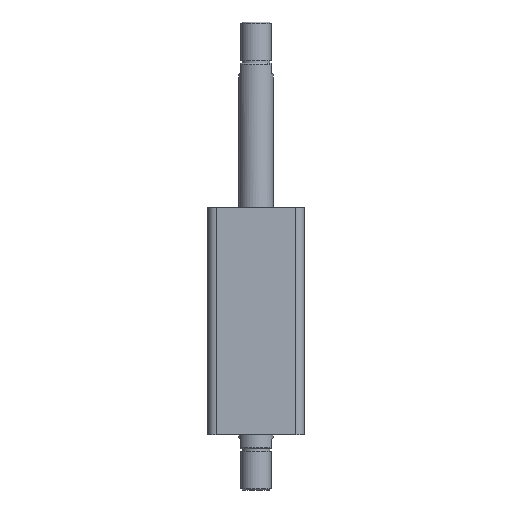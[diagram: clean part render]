
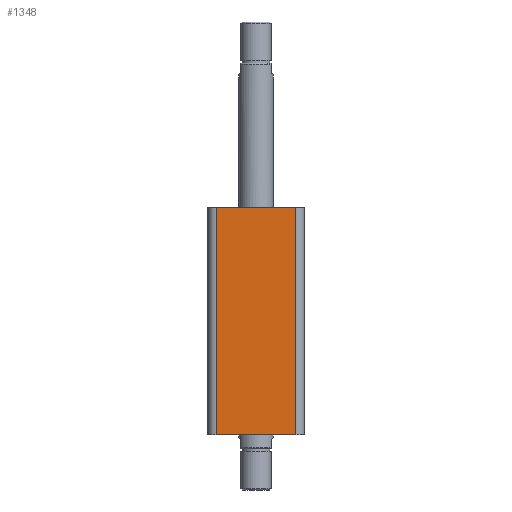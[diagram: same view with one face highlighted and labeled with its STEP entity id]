
A CAD part, front view. The second image highlights one B-rep face of the part: STEP entity #1348.
In plain terms, the highlighted planar face has unit normal (0, -1, 0).
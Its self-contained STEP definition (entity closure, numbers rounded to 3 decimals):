
#10 = PLANE ( 'NONE',  #3028 ) ;
#19 = CARTESIAN_POINT ( 'NONE',  ( -35., -35., 165. ) ) ;
#32 = DIRECTION ( 'NONE',  ( 0., 1., 0. ) ) ;
#33 = DIRECTION ( 'NONE',  ( 0., 0., 1. ) ) ;
#137 = ORIENTED_EDGE ( 'NONE', *, *, #2790, .T. ) ;
#487 = ORIENTED_EDGE ( 'NONE', *, *, #2794, .F. ) ;
#488 = ORIENTED_EDGE ( 'NONE', *, *, #2793, .T. ) ;
#489 = ORIENTED_EDGE ( 'NONE', *, *, #2792, .T. ) ;
#944 = DIRECTION ( 'NONE',  ( 0., 0., 1. ) ) ;
#948 = DIRECTION ( 'NONE',  ( 1., 0., 0. ) ) ;
#961 = CARTESIAN_POINT ( 'NONE',  ( 29., -35., 165. ) ) ;
#965 = CARTESIAN_POINT ( 'NONE',  ( -35., -35., 0. ) ) ;
#970 = CARTESIAN_POINT ( 'NONE',  ( -29., -35., 165. ) ) ;
#971 = DIRECTION ( 'NONE',  ( 0., 0., -1. ) ) ;
#972 = CARTESIAN_POINT ( 'NONE',  ( -35., -35., 165. ) ) ;
#973 = DIRECTION ( 'NONE',  ( 1., 0., 0. ) ) ;
#1348 = ADVANCED_FACE ( 'NONE', ( #1812 ), #10, .F. ) ;
#1564 = EDGE_LOOP ( 'NONE', ( #487, #488, #489, #137 ) ) ;
#1812 = FACE_OUTER_BOUND ( 'NONE', #1564, .T. ) ;
#2004 = LINE ( 'NONE', #961, #2007 ) ;
#2007 = VECTOR ( 'NONE', #944, 1000. ) ;
#2008 = LINE ( 'NONE', #965, #2010 ) ;
#2009 = LINE ( 'NONE', #970, #2012 ) ;
#2010 = VECTOR ( 'NONE', #948, 1000. ) ;
#2011 = LINE ( 'NONE', #972, #2014 ) ;
#2012 = VECTOR ( 'NONE', #971, 1000. ) ;
#2014 = VECTOR ( 'NONE', #973, 1000. ) ;
#2379 = CARTESIAN_POINT ( 'NONE',  ( -29., -35., 0. ) ) ;
#2399 = CARTESIAN_POINT ( 'NONE',  ( -29., -35., 165. ) ) ;
#2412 = CARTESIAN_POINT ( 'NONE',  ( 29., -35., 165. ) ) ;
#2444 = CARTESIAN_POINT ( 'NONE',  ( 29., -35., 0. ) ) ;
#2790 = EDGE_CURVE ( 'NONE', #3438, #3406, #2004, .T. ) ;
#2792 = EDGE_CURVE ( 'NONE', #3373, #3438, #2008, .T. ) ;
#2793 = EDGE_CURVE ( 'NONE', #3393, #3373, #2009, .T. ) ;
#2794 = EDGE_CURVE ( 'NONE', #3393, #3406, #2011, .T. ) ;
#3028 = AXIS2_PLACEMENT_3D ( 'NONE', #19, #32, #33 ) ;
#3373 = VERTEX_POINT ( 'NONE', #2379 ) ;
#3393 = VERTEX_POINT ( 'NONE', #2399 ) ;
#3406 = VERTEX_POINT ( 'NONE', #2412 ) ;
#3438 = VERTEX_POINT ( 'NONE', #2444 ) ;
